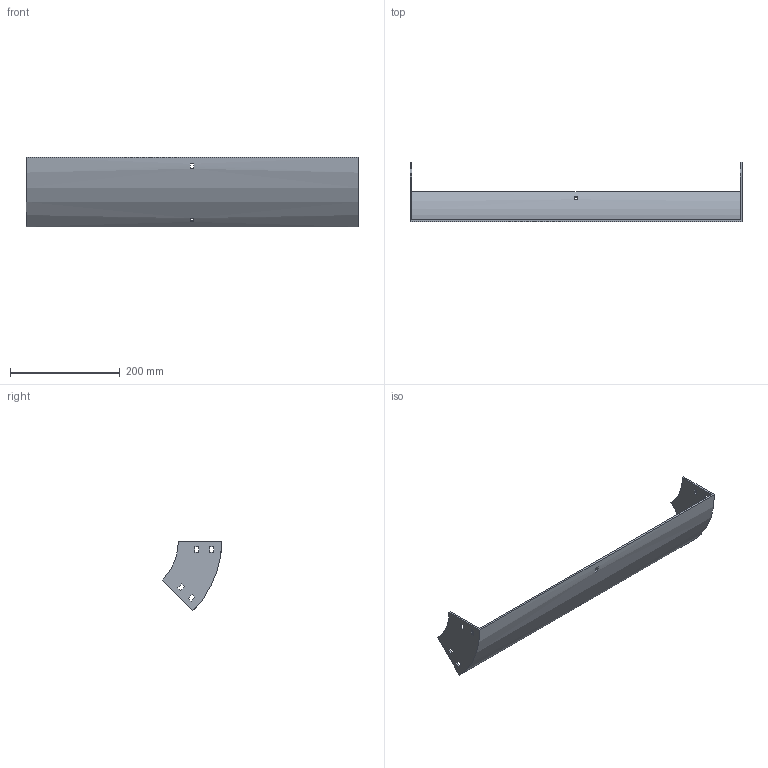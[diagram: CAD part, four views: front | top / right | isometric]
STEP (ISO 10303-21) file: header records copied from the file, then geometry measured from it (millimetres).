
FILE_DESCRIPTION (( 'STEP AP214' ), '1' );
FILE_NAME ('31B1C600.step', '2025-02-21T09:47:56', ( '' ), ( '' ), 'SwSTEP 2.0', 'SolidWorks 2023', '' );
FILE_SCHEMA (( 'AUTOMOTIVE_DESIGN' ));
Length unit declared in the file: millimetre
Products named in the file (1): 31B1C600
Bounding box: 604 x 108.29 x 126.57 mm (x, y, z)
Volume: 349100.1 mm3; surface area: 206500.2 mm2
Topology: 1 solids, 1 shells, 50 faces, 144 edges, 96 vertices
Faces by surface type: plane 46, cylinder 4
Entity records: 1687 total; most frequent: CARTESIAN_POINT 291, ORIENTED_EDGE 288, DIRECTION 262, EDGE_CURVE 144, VECTOR 128, LINE 128, VERTEX_POINT 96, EDGE_LOOP 70
